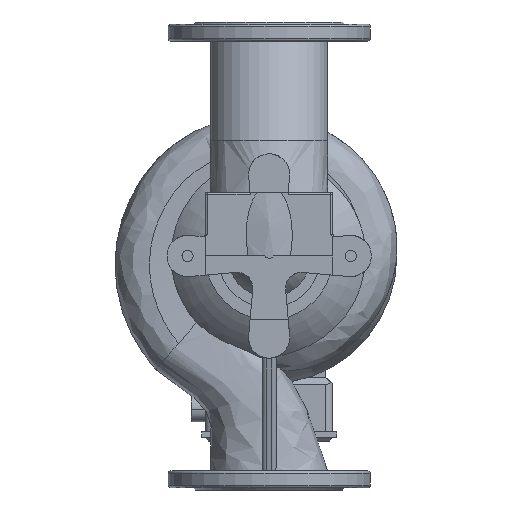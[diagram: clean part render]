
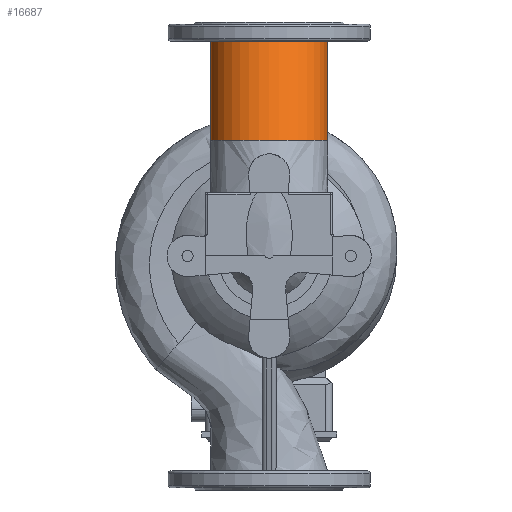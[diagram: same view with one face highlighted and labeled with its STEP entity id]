
A CAD part, front view. The second image highlights one B-rep face of the part: STEP entity #16687.
In plain terms, the highlighted free-form (B-spline) face has degree [3, 1] with [7, 2] control points.
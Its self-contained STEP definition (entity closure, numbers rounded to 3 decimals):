
#1681 = ORIENTED_EDGE ( 'NONE', *, *, #29176, .F. ) ;
#2154 = CARTESIAN_POINT ( 'NONE',  ( -82.5, -65.302, 162.96 ) ) ;
#3204 = CARTESIAN_POINT ( 'NONE',  ( -82.5, 99.698, 162.96 ) ) ;
#4028 = AXIS2_PLACEMENT_3D ( 'NONE', #19645, #24545, #19482 ) ;
#7185 = DIRECTION ( 'NONE',  ( -1., 0., 0. ) ) ;
#9723 = CARTESIAN_POINT ( 'NONE',  ( 0., -65.302, 162.96 ) ) ;
#9754 = FACE_OUTER_BOUND ( 'NONE', #15205, .T. ) ;
#9789 = EDGE_CURVE ( 'NONE', #12262, #16846, #31391, .T. ) ;
#11747 = ORIENTED_EDGE ( 'NONE', *, *, #29999, .F. ) ;
#12206 = CARTESIAN_POINT ( 'NONE',  ( 82.5, 0., 303. ) ) ;
#12262 = VERTEX_POINT ( 'NONE', #12206 ) ;
#12873 = CARTESIAN_POINT ( 'NONE',  ( 82.5, -230.302, 162.96 ) ) ;
#12954 = CARTESIAN_POINT ( 'NONE',  ( -82.5, 0., 303. ) ) ;
#13098 = CIRCLE ( 'NONE', #25771, 82.5 ) ;
#15205 = EDGE_LOOP ( 'NONE', ( #11747, #19597, #18180, #1681 ) ) ;
#16087 =( BOUNDED_SURFACE ( )  B_SPLINE_SURFACE ( 3, 1, ( 
 ( #24941, #24037 ),
 ( #3204, #19290 ),
 ( #31185, #23884 ),
 ( #29108, #17491 ),
 ( #12873, #27166 ),
 ( #22399, #31030 ),
 ( #2154, #21497 ) ),
 .UNSPECIFIED., .T., .F., .T. ) 
 B_SPLINE_SURFACE_WITH_KNOTS ( ( 4, 3, 4 ),
 ( 2, 2 ),
 ( 0., 0.5, 1. ),
 ( 0., 1. ),
 .UNSPECIFIED. ) 
 GEOMETRIC_REPRESENTATION_ITEM ( )  RATIONAL_B_SPLINE_SURFACE ( (
 ( 1., 1.),
 ( 0.333, 0.333),
 ( 0.333, 0.333),
 ( 1., 1.),
 ( 0.333, 0.333),
 ( 0.333, 0.333),
 ( 1., 1.) ) ) 
 REPRESENTATION_ITEM ( '' )  SURFACE ( )  );
#16687 = ADVANCED_FACE ( 'NONE', ( #9754 ), #16087, .F. ) ;
#16846 = VERTEX_POINT ( 'NONE', #25099 ) ;
#17491 = CARTESIAN_POINT ( 'NONE',  ( 82.5, 0., 303. ) ) ;
#18180 = ORIENTED_EDGE ( 'NONE', *, *, #9789, .T. ) ;
#19093 = DIRECTION ( 'NONE',  ( 0., 0., -1. ) ) ;
#19138 = CARTESIAN_POINT ( 'NONE',  ( -82.5, -65.302, 162.96 ) ) ;
#19262 = CARTESIAN_POINT ( 'NONE',  ( 82.5, 0., 303. ) ) ;
#19290 = CARTESIAN_POINT ( 'NONE',  ( -82.5, 165., 303. ) ) ;
#19319 = VERTEX_POINT ( 'NONE', #23306 ) ;
#19482 = DIRECTION ( 'NONE',  ( -1., 0., 0. ) ) ;
#19597 = ORIENTED_EDGE ( 'NONE', *, *, #25959, .T. ) ;
#19645 = CARTESIAN_POINT ( 'NONE',  ( 0., 0., 303. ) ) ;
#21497 = CARTESIAN_POINT ( 'NONE',  ( -82.5, 0., 303. ) ) ;
#21627 = CARTESIAN_POINT ( 'NONE',  ( 82.5, -65.302, 162.96 ) ) ;
#22165 = VERTEX_POINT ( 'NONE', #19138 ) ;
#22399 = CARTESIAN_POINT ( 'NONE',  ( -82.5, -230.302, 162.96 ) ) ;
#23306 = CARTESIAN_POINT ( 'NONE',  ( 82.5, -65.302, 162.96 ) ) ;
#23884 = CARTESIAN_POINT ( 'NONE',  ( 82.5, 165., 303. ) ) ;
#23929 = B_SPLINE_CURVE_WITH_KNOTS ( 'NONE', 1,
 ( #21627, #19262 ),
 .UNSPECIFIED., .F., .F.,
 ( 2, 2 ),
 ( 0., 1. ),
 .UNSPECIFIED. ) ;
#24037 = CARTESIAN_POINT ( 'NONE',  ( -82.5, 0., 303. ) ) ;
#24545 = DIRECTION ( 'NONE',  ( 0., 0., -1. ) ) ;
#24941 = CARTESIAN_POINT ( 'NONE',  ( -82.5, -65.302, 162.96 ) ) ;
#25099 = CARTESIAN_POINT ( 'NONE',  ( -82.5, 0., 303. ) ) ;
#25771 = AXIS2_PLACEMENT_3D ( 'NONE', #9723, #19093, #7185 ) ;
#25959 = EDGE_CURVE ( 'NONE', #19319, #12262, #23929, .T. ) ;
#27166 = CARTESIAN_POINT ( 'NONE',  ( 82.5, -165., 303. ) ) ;
#27872 = CARTESIAN_POINT ( 'NONE',  ( -82.5, -65.302, 162.96 ) ) ;
#28315 = B_SPLINE_CURVE_WITH_KNOTS ( 'NONE', 1,
 ( #27872, #12954 ),
 .UNSPECIFIED., .F., .F.,
 ( 2, 2 ),
 ( 0., 1. ),
 .UNSPECIFIED. ) ;
#29108 = CARTESIAN_POINT ( 'NONE',  ( 82.5, -65.302, 162.96 ) ) ;
#29176 = EDGE_CURVE ( 'NONE', #22165, #16846, #28315, .T. ) ;
#29999 = EDGE_CURVE ( 'NONE', #19319, #22165, #13098, .T. ) ;
#31030 = CARTESIAN_POINT ( 'NONE',  ( -82.5, -165., 303. ) ) ;
#31185 = CARTESIAN_POINT ( 'NONE',  ( 82.5, 99.698, 162.96 ) ) ;
#31391 = CIRCLE ( 'NONE', #4028, 82.5 ) ;
